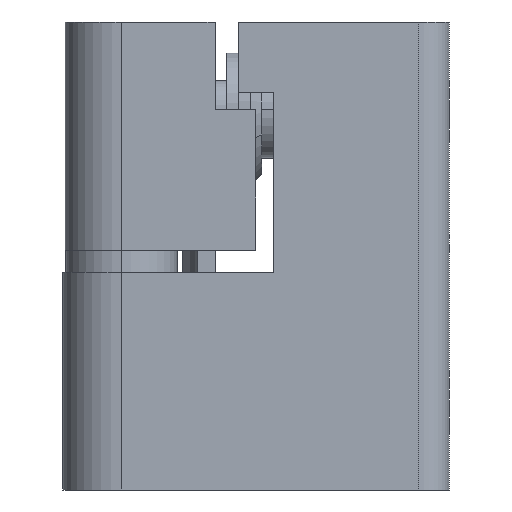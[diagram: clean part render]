
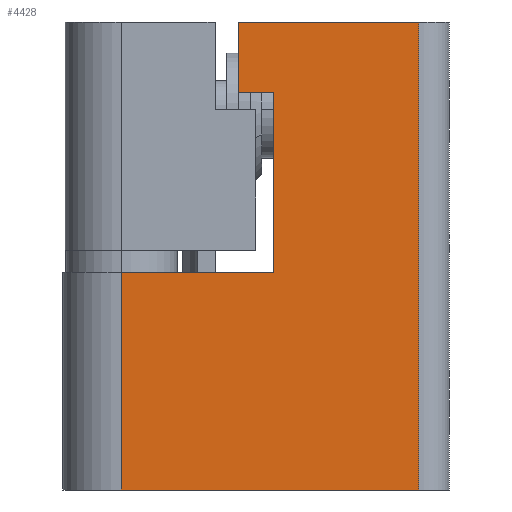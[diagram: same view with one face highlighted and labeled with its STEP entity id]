
A CAD part, left-side view. The second image highlights one B-rep face of the part: STEP entity #4428.
In plain terms, the highlighted planar face has unit normal (-1, 0, 0).
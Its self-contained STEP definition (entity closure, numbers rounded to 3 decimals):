
#142 = ORIENTED_EDGE ( 'NONE', *, *, #143, .F. ) ;
#143 = EDGE_CURVE ( 'NONE', #4206, #208, #2329, .T. ) ;
#144 = EDGE_CURVE ( 'NONE', #208, #169, #2389, .T. ) ;
#145 = ORIENTED_EDGE ( 'NONE', *, *, #166, .F. ) ;
#152 = VERTEX_POINT ( 'NONE', #2375 ) ;
#155 = EDGE_CURVE ( 'NONE', #209, #152, #2374, .T. ) ;
#156 = VERTEX_POINT ( 'NONE', #2370 ) ;
#164 = ORIENTED_EDGE ( 'NONE', *, *, #167, .T. ) ;
#165 = ORIENTED_EDGE ( 'NONE', *, *, #155, .T. ) ;
#166 = EDGE_CURVE ( 'NONE', #209, #3972, #2362, .T. ) ;
#167 = EDGE_CURVE ( 'NONE', #152, #156, #2421, .T. ) ;
#168 = ORIENTED_EDGE ( 'NONE', *, *, #206, .F. ) ;
#169 = VERTEX_POINT ( 'NONE', #2417 ) ;
#206 = EDGE_CURVE ( 'NONE', #169, #156, #2476, .T. ) ;
#207 = ORIENTED_EDGE ( 'NONE', *, *, #144, .F. ) ;
#208 = VERTEX_POINT ( 'NONE', #2472 ) ;
#209 = VERTEX_POINT ( 'NONE', #2471 ) ;
#2326 = DIRECTION ( 'NONE',  ( 0., 0., 1. ) ) ;
#2327 = VECTOR ( 'NONE', #2326, 1000. ) ;
#2328 = CARTESIAN_POINT ( 'NONE',  ( -5., -10., 40. ) ) ;
#2329 = LINE ( 'NONE', #2328, #2327 ) ;
#2359 = DIRECTION ( 'NONE',  ( 0., -1., 0. ) ) ;
#2360 = VECTOR ( 'NONE', #2359, 1000. ) ;
#2361 = CARTESIAN_POINT ( 'NONE',  ( -5., 0., 18.6 ) ) ;
#2362 = LINE ( 'NONE', #2361, #2360 ) ;
#2370 = CARTESIAN_POINT ( 'NONE',  ( -5., -25.4, 0. ) ) ;
#2371 = DIRECTION ( 'NONE',  ( 0., 0., -1. ) ) ;
#2372 = VECTOR ( 'NONE', #2371, 1000. ) ;
#2373 = CARTESIAN_POINT ( 'NONE',  ( -5., 0., 40. ) ) ;
#2374 = LINE ( 'NONE', #2373, #2372 ) ;
#2375 = CARTESIAN_POINT ( 'NONE',  ( -5., 0., 0. ) ) ;
#2386 = DIRECTION ( 'NONE',  ( 0., -1., 0. ) ) ;
#2387 = VECTOR ( 'NONE', #2386, 1000. ) ;
#2388 = CARTESIAN_POINT ( 'NONE',  ( -5., 0., 40. ) ) ;
#2389 = LINE ( 'NONE', #2388, #2387 ) ;
#2417 = CARTESIAN_POINT ( 'NONE',  ( -5., -25.4, 40. ) ) ;
#2418 = DIRECTION ( 'NONE',  ( 0., -1., 0. ) ) ;
#2419 = VECTOR ( 'NONE', #2418, 1000. ) ;
#2420 = CARTESIAN_POINT ( 'NONE',  ( -5., 0., 0. ) ) ;
#2421 = LINE ( 'NONE', #2420, #2419 ) ;
#2471 = CARTESIAN_POINT ( 'NONE',  ( -5., 0., 18.6 ) ) ;
#2472 = CARTESIAN_POINT ( 'NONE',  ( -5., -10., 40. ) ) ;
#2473 = DIRECTION ( 'NONE',  ( 0., 0., -1. ) ) ;
#2474 = VECTOR ( 'NONE', #2473, 1000. ) ;
#2475 = CARTESIAN_POINT ( 'NONE',  ( -5., -25.4, 40. ) ) ;
#2476 = LINE ( 'NONE', #2475, #2474 ) ;
#3972 = VERTEX_POINT ( 'NONE', #5975 ) ;
#4206 = VERTEX_POINT ( 'NONE', #5970 ) ;
#4233 = ORIENTED_EDGE ( 'NONE', *, *, #4283, .F. ) ;
#4283 = EDGE_CURVE ( 'NONE', #3972, #4298, #5969, .T. ) ;
#4298 = VERTEX_POINT ( 'NONE', #5965 ) ;
#4302 = EDGE_LOOP ( 'NONE', ( #4303, #4233, #145, #165, #164, #168, #207, #142 ) ) ;
#4303 = ORIENTED_EDGE ( 'NONE', *, *, #4316, .F. ) ;
#4316 = EDGE_CURVE ( 'NONE', #4298, #4206, #5964, .T. ) ;
#4428 = ADVANCED_FACE ( 'NONE', ( #5960 ), #5959, .F. ) ;
#5955 = DIRECTION ( 'NONE',  ( 0., 1., 0. ) ) ;
#5956 = DIRECTION ( 'NONE',  ( 1., 0., 0. ) ) ;
#5957 = AXIS2_PLACEMENT_3D ( 'NONE', #5958, #5956, #5955 ) ;
#5958 = CARTESIAN_POINT ( 'NONE',  ( -5., 0., 40. ) ) ;
#5959 = PLANE ( 'NONE',  #5957 ) ;
#5960 = FACE_OUTER_BOUND ( 'NONE', #4302, .T. ) ;
#5961 = DIRECTION ( 'NONE',  ( 0., 1., 0. ) ) ;
#5962 = VECTOR ( 'NONE', #5961, 1000. ) ;
#5963 = CARTESIAN_POINT ( 'NONE',  ( -5., 0., 34. ) ) ;
#5964 = LINE ( 'NONE', #5963, #5962 ) ;
#5965 = CARTESIAN_POINT ( 'NONE',  ( -5., -13., 34. ) ) ;
#5966 = DIRECTION ( 'NONE',  ( 0., 0., 1. ) ) ;
#5967 = VECTOR ( 'NONE', #5966, 1000. ) ;
#5968 = CARTESIAN_POINT ( 'NONE',  ( -5., -13., 40. ) ) ;
#5969 = LINE ( 'NONE', #5968, #5967 ) ;
#5970 = CARTESIAN_POINT ( 'NONE',  ( -5., -10., 34. ) ) ;
#5975 = CARTESIAN_POINT ( 'NONE',  ( -5., -13., 18.6 ) ) ;
